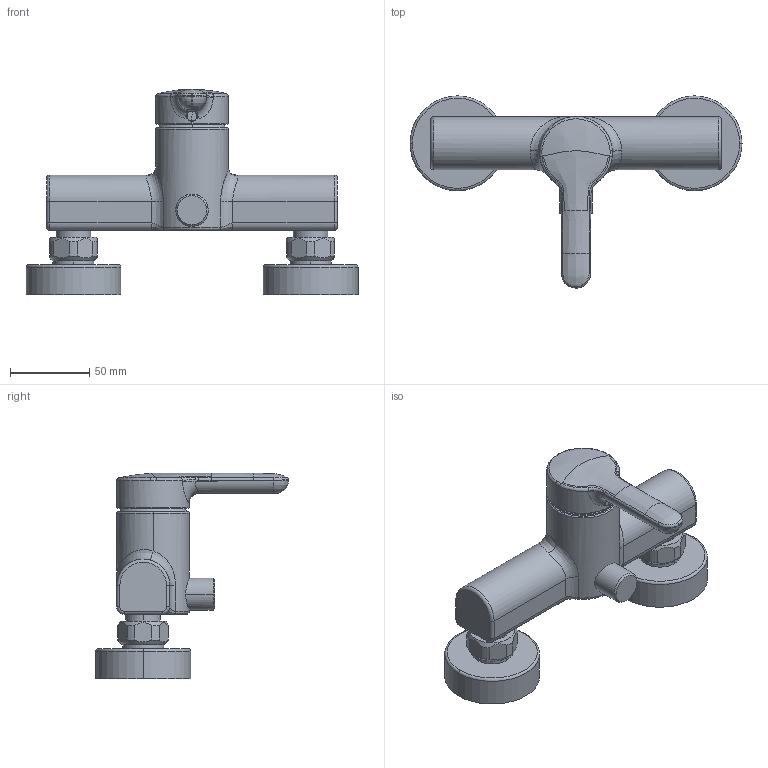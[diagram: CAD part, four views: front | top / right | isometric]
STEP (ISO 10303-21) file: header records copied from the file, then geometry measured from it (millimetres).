
FILE_DESCRIPTION((''),'2;1');
FILE_NAME('WAMAS_150_SW0001','2022-03-10T08:56:18',('KS894'),(''),'CREO PARAMETRIC BY PTC INC, 2018500','CREO PARAMETRIC BY PTC INC, 2018500','');
FILE_SCHEMA(('CONFIG_CONTROL_DESIGN'));
Length unit declared in the file: millimetre
Products named in the file (1): WAMAS_150_SW0001
Bounding box: 210 x 121.75 x 130 mm (x, y, z)
Volume: 448535.5 mm3; surface area: 58540.7 mm2
Topology: 1 solids, 1 shells, 163 faces, 386 edges, 233 vertices
Faces by surface type: cylinder 48, bspline 46, plane 32, torus 19, cone 11, sphere 5, extrusion 2
Entity records: 12829 total; most frequent: CARTESIAN_POINT 9421, ORIENTED_EDGE 764, DIRECTION 590, EDGE_CURVE 382, AXIS2_PLACEMENT_3D 250, VERTEX_POINT 233, EDGE_LOOP 175, FACE_OUTER_BOUND 163
